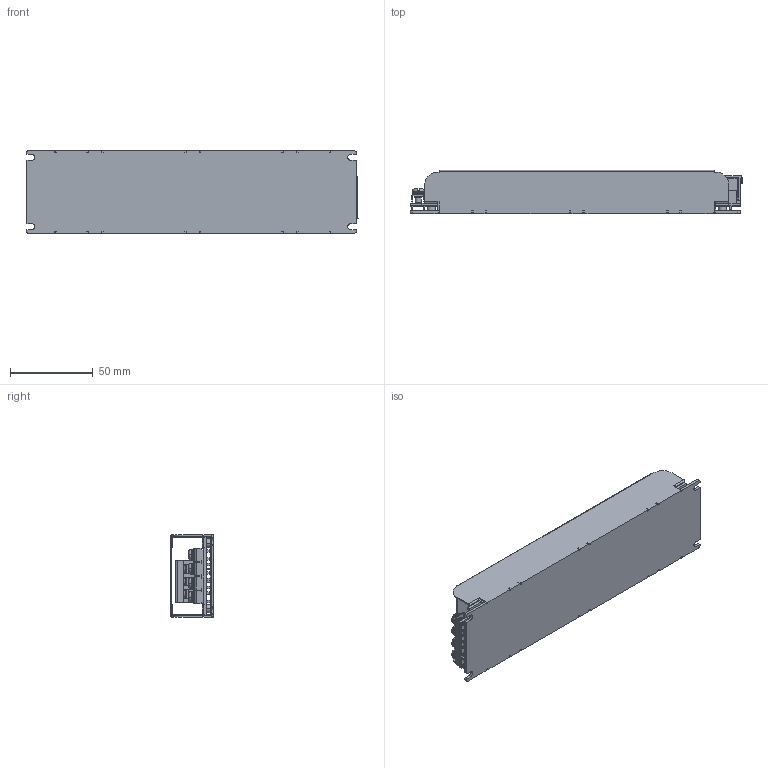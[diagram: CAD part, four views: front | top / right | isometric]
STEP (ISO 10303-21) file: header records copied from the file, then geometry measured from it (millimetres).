
FILE_DESCRIPTION((''),'2;1');
FILE_NAME('UDP-400_ASM','2026-10-19T17:39:58',('shalinice'),(''),'CREO PARAMETRIC BY PTC INC, 2017110','CREO PARAMETRIC BY PTC INC, 2017110','');
FILE_SCHEMA(('AUTOMOTIVE_DESIGN { 1 0 10303 214 1 1 1 1 }'));
Length unit declared in the file: millimetre
Products named in the file (4): DG28C; DG28C-COVER; UDP-400_260527; UDP-400_ASM
Assembly tree (3 placements, depth 2):
  UDP-400_ASM
    DG28C
    DG28C-COVER
    UDP-400_260527
Bounding box: 200.94 x 26 x 50 mm (x, y, z)
Volume: 52593.2 mm3; surface area: 109432.8 mm2
Topology: 3 solids, 3 shells, 1101 faces, 3006 edges, 1894 vertices
Faces by surface type: plane 787, cylinder 232, torus 46, cone 34, bspline 2
Entity records: 42721 total; most frequent: CARTESIAN_POINT 6936, ORIENTED_EDGE 6012, DIRECTION 5732, EDGE_CURVE 3006, VECTOR 2076, LINE 2076, VERTEX_POINT 1894, AXIS2_PLACEMENT_3D 1828
